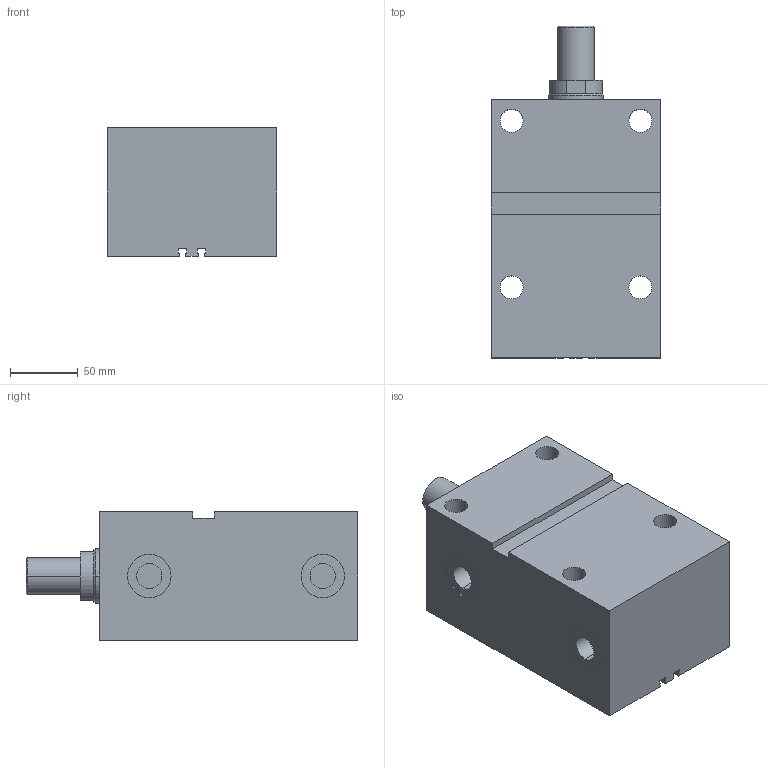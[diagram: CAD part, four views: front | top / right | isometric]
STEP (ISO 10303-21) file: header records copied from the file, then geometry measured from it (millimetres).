
FILE_DESCRIPTION (( 'STEP AP203' ), '1' );
FILE_NAME ('GERMA_Blockzylinder_701-063-100-A.STEP', '2016-07-26T09:30:06', ( '' ), ( '' ), 'SwSTEP 2.0', 'SolidWorks 2015', '' );
FILE_SCHEMA (( 'CONFIG_CONTROL_DESIGN' ));
Length unit declared in the file: millimetre
Products named in the file (3): GH-700-063_GH-701-063-100; Kolben_MT 70x-063_Kolben_MT DU.63-Hub100-AG; GERMA_Blockzylinder_701-063-100-A
Assembly tree (2 placements, depth 2):
  GERMA_Blockzylinder_701-063-100-A
    GH-700-063_GH-701-063-100
    Kolben_MT 70x-063_Kolben_MT DU.63-Hub100-AG
Bounding box: 125 x 245 x 95 mm (x, y, z)
Volume: 2001459.9 mm3; surface area: 205932.8 mm2
Topology: 2 solids, 2 shells, 92 faces, 216 edges, 137 vertices
Faces by surface type: plane 43, cylinder 37, cone 12
Entity records: 2938 total; most frequent: DIRECTION 491, CARTESIAN_POINT 446, ORIENTED_EDGE 424, EDGE_CURVE 212, AXIS2_PLACEMENT_3D 182, VERTEX_POINT 137, LINE 127, VECTOR 127
